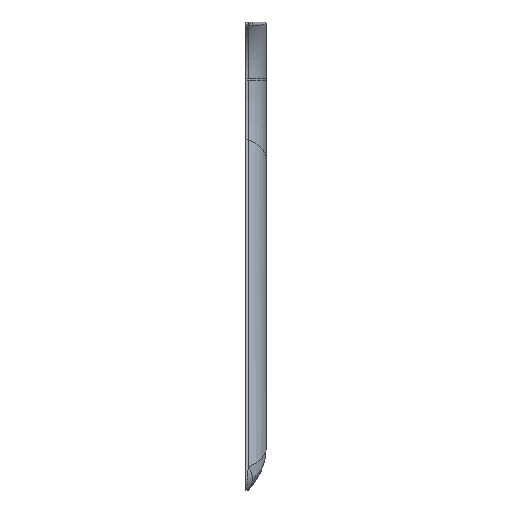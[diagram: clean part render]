
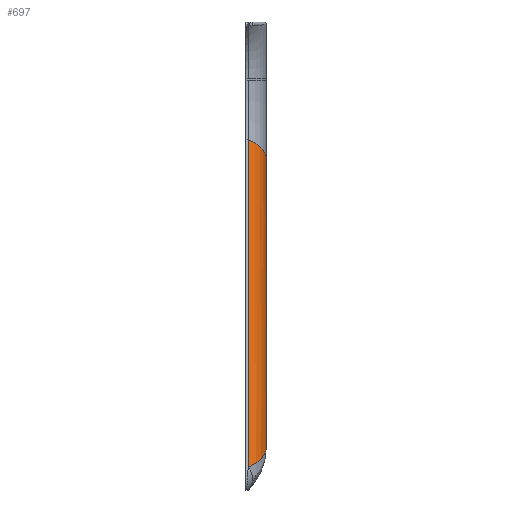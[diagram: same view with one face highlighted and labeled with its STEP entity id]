
A CAD part, top view. The second image highlights one B-rep face of the part: STEP entity #697.
In plain terms, the highlighted cylindrical face has radius 12.7 mm (diameter 25.4 mm), a partial arc.
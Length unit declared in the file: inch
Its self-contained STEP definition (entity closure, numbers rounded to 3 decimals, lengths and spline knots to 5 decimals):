
#30 = VERTEX_POINT ( 'NONE', #1594 ) ;
#51 = CARTESIAN_POINT ( 'NONE',  ( 0.02355, -2.22283, 2.02372 ) ) ;
#176 = CARTESIAN_POINT ( 'NONE',  ( 0.17, -2.05384, 1.54264 ) ) ;
#181 = CARTESIAN_POINT ( 'NONE',  ( 0.17, -2.05384, 1.54264 ) ) ;
#197 = DIRECTION ( 'NONE',  ( 0., -0.893, 0.45 ) ) ;
#238 = FACE_OUTER_BOUND ( 'NONE', #693, .T. ) ;
#246 =( BOUNDED_CURVE ( )  B_SPLINE_CURVE ( 3, ( #969, #833, #1108, #176 ),
 .UNSPECIFIED., .F., .T. ) 
 B_SPLINE_CURVE_WITH_KNOTS ( ( 4, 4 ),
 ( 0.7854, 1.5708 ),
 .UNSPECIFIED. ) 
 CURVE ( )  GEOMETRIC_REPRESENTATION_ITEM ( )  RATIONAL_B_SPLINE_CURVE ( ( 1., 0.949, 0.949, 1. ) ) 
 REPRESENTATION_ITEM ( '' )  );
#292 = EDGE_CURVE ( 'NONE', #30, #1496, #620, .T. ) ;
#374 = VECTOR ( 'NONE', #197, 39.37008 ) ;
#422 = ORIENTED_EDGE ( 'NONE', *, *, #1573, .F. ) ;
#495 = CARTESIAN_POINT ( 'NONE',  ( 0.02355, 0.3631, 0.72048 ) ) ;
#556 = ORIENTED_EDGE ( 'NONE', *, *, #1348, .T. ) ;
#620 = LINE ( 'NONE', #1109, #374 ) ;
#693 = EDGE_LOOP ( 'NONE', ( #422, #1106, #904, #556 ) ) ;
#697 = ADVANCED_FACE ( 'NONE', ( #238 ), #1380, .T. ) ;
#833 = CARTESIAN_POINT ( 'NONE',  ( 0.11857, -2.17741, 1.89442 ) ) ;
#872 = CIRCLE ( 'NONE', #1137, 0.5 ) ;
#891 = AXIS2_PLACEMENT_3D ( 'NONE', #978, #1102, #1490 ) ;
#904 = ORIENTED_EDGE ( 'NONE', *, *, #292, .F. ) ;
#969 = CARTESIAN_POINT ( 'NONE',  ( 0.02355, -2.22283, 2.02372 ) ) ;
#978 = CARTESIAN_POINT ( 'NONE',  ( -0.33, 0.20399, 0.40475 ) ) ;
#997 = LINE ( 'NONE', #495, #1606 ) ;
#1017 = EDGE_CURVE ( 'NONE', #1475, #1496, #246, .T. ) ;
#1102 = DIRECTION ( 'NONE',  ( 0., 0.893, -0.45 ) ) ;
#1106 = ORIENTED_EDGE ( 'NONE', *, *, #1017, .T. ) ;
#1108 = CARTESIAN_POINT ( 'NONE',  ( 0.17, -2.11807, 1.72549 ) ) ;
#1109 = CARTESIAN_POINT ( 'NONE',  ( 0.17, 0.20399, 0.40475 ) ) ;
#1137 = AXIS2_PLACEMENT_3D ( 'NONE', #1580, #1300, #1445 ) ;
#1300 = DIRECTION ( 'NONE',  ( 0., -0.893, 0.45 ) ) ;
#1348 = EDGE_CURVE ( 'NONE', #30, #1473, #872, .T. ) ;
#1374 = CARTESIAN_POINT ( 'NONE',  ( 0.02355, 0.52276, 0.64001 ) ) ;
#1380 = CYLINDRICAL_SURFACE ( 'NONE', #891, 0.5 ) ;
#1445 = DIRECTION ( 'NONE',  ( 0., -0.45, -0.893 ) ) ;
#1473 = VERTEX_POINT ( 'NONE', #1374 ) ;
#1475 = VERTEX_POINT ( 'NONE', #51 ) ;
#1490 = DIRECTION ( 'NONE',  ( 0., 0.45, 0.893 ) ) ;
#1496 = VERTEX_POINT ( 'NONE', #181 ) ;
#1573 = EDGE_CURVE ( 'NONE', #1475, #1473, #997, .T. ) ;
#1580 = CARTESIAN_POINT ( 'NONE',  ( -0.33, 0.36364, 0.32429 ) ) ;
#1594 = CARTESIAN_POINT ( 'NONE',  ( 0.17, 0.36364, 0.32429 ) ) ;
#1606 = VECTOR ( 'NONE', #1675, 39.37008 ) ;
#1675 = DIRECTION ( 'NONE',  ( 0., 0.893, -0.45 ) ) ;
